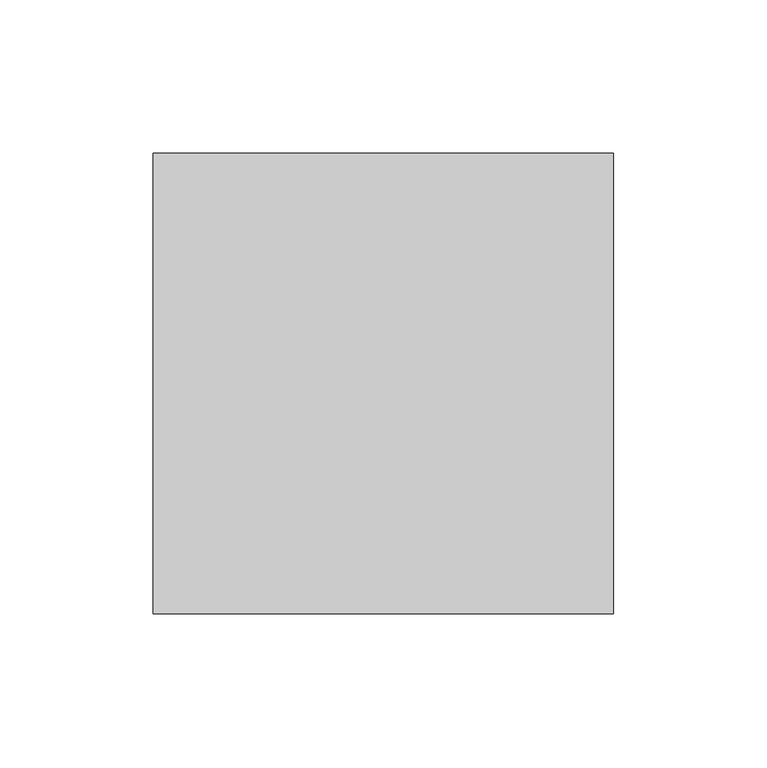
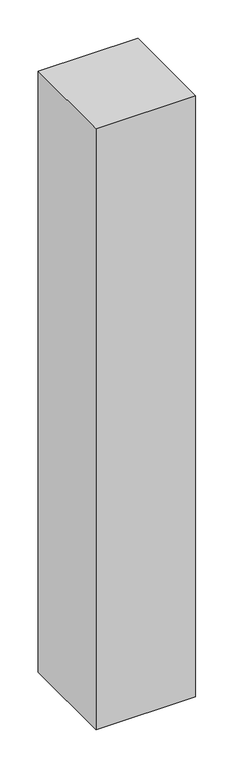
"""IFC4 building model written with IfcOpenShell, lengths in millimetres: proxy geometry, Брус : 150х150."""

from ifc_helpers import new_model, si_unit, origin, origin_with_axes, place, context, project, spatial, polyline, outline, extrude, source, transform, mapped, element, save


def generic_models_1dc8325f(model_context):
    return source(origin(), model_context, "Body", "SweptSolid", [
        extrude(outline(polyline([(150.0, 0.0), (0.0, 0.0), (0.0, 150.0), (150.0, 150.0), (150.0, 0.0)])), origin_with_axes(), (0.0, 0.0, 1.0), 955.0),
    ])


if __name__ == "__main__":
    model = new_model("IFC4")
    model_context = context("Model", 3, world=origin())
    ifc_project = project(units=[si_unit("LENGTHUNIT", "METRE", prefix="MILLI")], contexts=[model_context])
    site = spatial("IfcSite", under=ifc_project)
    building = spatial("IfcBuilding", under=site)
    placement = place(None, origin())
    generic_models_shape = generic_models_1dc8325f(model_context)
    element("IfcBuildingElementProxy", 1, Name="Брус : 150х150", ObjectType="Брус : 150х150", at=placement, inside=building, context=model_context, shape_type="MappedRepresentation", body=[
        mapped(generic_models_shape, transform((0.0, 0.0, 0.0), x_axis=(1.0, 0.0, 0.0), y_axis=(0.0, 1.0, 0.0), z_axis=(0.0, 0.0, 1.0))),
    ])
    save(model, "model.ifc")
